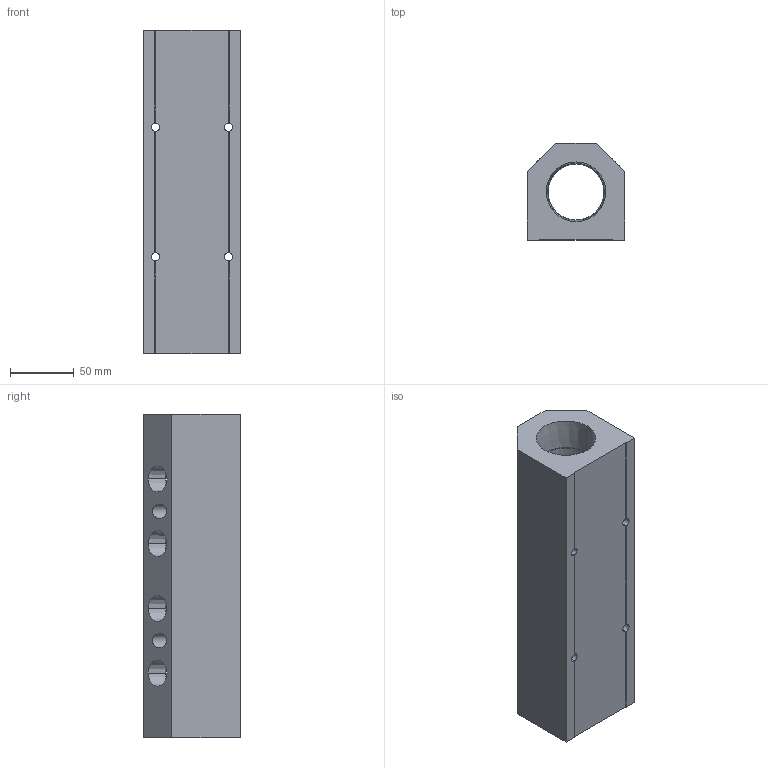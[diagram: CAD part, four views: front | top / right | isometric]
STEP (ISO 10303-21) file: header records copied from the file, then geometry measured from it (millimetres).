
FILE_DESCRIPTION (( 'STEP AP214' ), '1' );
FILE_NAME ('ALM4BD-N8N24-254B.step', '2022-02-07T09:29:13', ( '' ), ( '' ), 'SwSTEP 2.0', 'SolidWorks 2020', '' );
FILE_SCHEMA (( 'AUTOMOTIVE_DESIGN' ));
Length unit declared in the file: millimetre
Products named in the file (1): ALM4BD-N8N24-254B
Bounding box: 76.2 x 76.2 x 254 mm (x, y, z)
Volume: 897282.8 mm3; surface area: 122671.2 mm2
Topology: 1 solids, 1 shells, 331 faces, 871 edges, 578 vertices
Faces by surface type: plane 227, bspline 66, cone 20, cylinder 18
Entity records: 18060 total; most frequent: CARTESIAN_POINT 7195, ORIENTED_EDGE 1742, DIRECTION 1291, EDGE_CURVE 871, LINE 655, VECTOR 655, VERTEX_POINT 578, EDGE_LOOP 393
